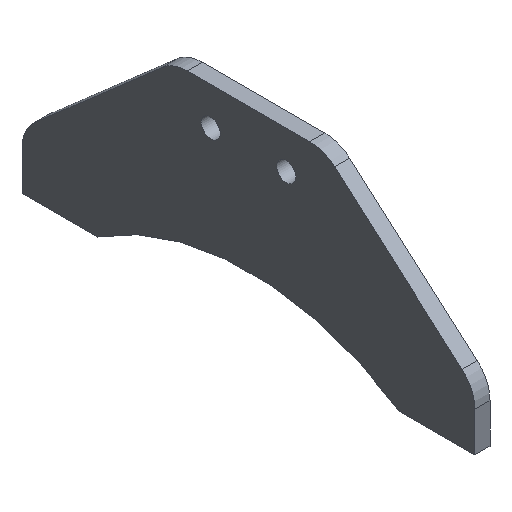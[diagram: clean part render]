
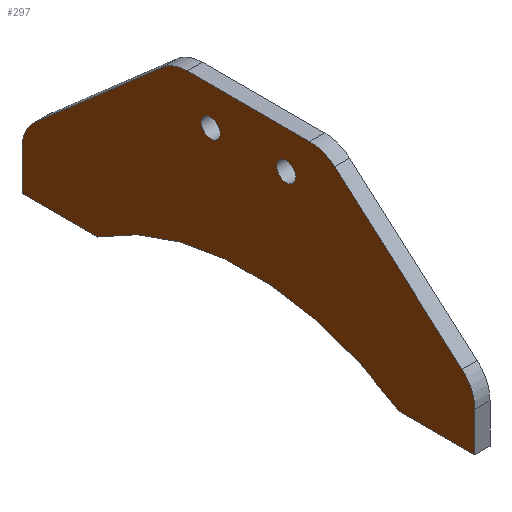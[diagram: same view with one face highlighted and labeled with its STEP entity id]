
A CAD part, isometric view. The second image highlights one B-rep face of the part: STEP entity #297.
In plain terms, the highlighted planar face has unit normal (-1, 0, 0).
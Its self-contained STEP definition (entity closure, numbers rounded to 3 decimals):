
#15=FACE_BOUND('',#47,.T.);
#16=FACE_BOUND('',#48,.T.);
#20=PLANE('',#329);
#30=FACE_OUTER_BOUND('',#46,.T.);
#46=EDGE_LOOP('',(#212,#213,#214,#215,#216,#217,#218,#219,#220,#221,#222,
#223));
#47=EDGE_LOOP('',(#224));
#48=EDGE_LOOP('',(#225));
#66=LINE('',#457,#94);
#69=LINE('',#463,#97);
#70=LINE('',#465,#98);
#71=LINE('',#469,#99);
#72=LINE('',#471,#100);
#73=LINE('',#475,#101);
#74=LINE('',#479,#102);
#94=VECTOR('',#367,10.);
#97=VECTOR('',#372,10.);
#98=VECTOR('',#373,10.);
#99=VECTOR('',#376,10.);
#100=VECTOR('',#377,10.);
#101=VECTOR('',#380,10.);
#102=VECTOR('',#383,10.);
#121=CIRCLE('',#327,10.);
#122=CIRCLE('',#330,72.111);
#123=CIRCLE('',#331,10.);
#124=CIRCLE('',#332,10.);
#125=CIRCLE('',#333,10.);
#126=CIRCLE('',#334,2.5);
#127=CIRCLE('',#335,2.5);
#136=VERTEX_POINT('',#450);
#137=VERTEX_POINT('',#452);
#138=VERTEX_POINT('',#456);
#140=VERTEX_POINT('',#462);
#141=VERTEX_POINT('',#464);
#142=VERTEX_POINT('',#466);
#143=VERTEX_POINT('',#468);
#144=VERTEX_POINT('',#470);
#145=VERTEX_POINT('',#472);
#146=VERTEX_POINT('',#474);
#147=VERTEX_POINT('',#476);
#148=VERTEX_POINT('',#478);
#149=VERTEX_POINT('',#481);
#150=VERTEX_POINT('',#483);
#164=EDGE_CURVE('',#136,#137,#121,.T.);
#166=EDGE_CURVE('',#138,#137,#66,.T.);
#169=EDGE_CURVE('',#140,#136,#69,.T.);
#170=EDGE_CURVE('',#141,#140,#70,.T.);
#171=EDGE_CURVE('',#141,#142,#122,.T.);
#172=EDGE_CURVE('',#143,#142,#71,.T.);
#173=EDGE_CURVE('',#144,#143,#72,.T.);
#174=EDGE_CURVE('',#145,#144,#123,.T.);
#175=EDGE_CURVE('',#146,#145,#73,.T.);
#176=EDGE_CURVE('',#147,#146,#124,.T.);
#177=EDGE_CURVE('',#148,#147,#74,.T.);
#178=EDGE_CURVE('',#138,#148,#125,.T.);
#179=EDGE_CURVE('',#149,#149,#126,.T.);
#180=EDGE_CURVE('',#150,#150,#127,.T.);
#212=ORIENTED_EDGE('',*,*,#164,.F.);
#213=ORIENTED_EDGE('',*,*,#169,.F.);
#214=ORIENTED_EDGE('',*,*,#170,.F.);
#215=ORIENTED_EDGE('',*,*,#171,.T.);
#216=ORIENTED_EDGE('',*,*,#172,.F.);
#217=ORIENTED_EDGE('',*,*,#173,.F.);
#218=ORIENTED_EDGE('',*,*,#174,.F.);
#219=ORIENTED_EDGE('',*,*,#175,.F.);
#220=ORIENTED_EDGE('',*,*,#176,.F.);
#221=ORIENTED_EDGE('',*,*,#177,.F.);
#222=ORIENTED_EDGE('',*,*,#178,.F.);
#223=ORIENTED_EDGE('',*,*,#166,.T.);
#224=ORIENTED_EDGE('',*,*,#179,.F.);
#225=ORIENTED_EDGE('',*,*,#180,.F.);
#297=ADVANCED_FACE('',(#30,#15,#16),#20,.F.);
#327=AXIS2_PLACEMENT_3D('',#453,#362,#363);
#329=AXIS2_PLACEMENT_3D('',#461,#370,#371);
#330=AXIS2_PLACEMENT_3D('',#467,#374,#375);
#331=AXIS2_PLACEMENT_3D('',#473,#378,#379);
#332=AXIS2_PLACEMENT_3D('',#477,#381,#382);
#333=AXIS2_PLACEMENT_3D('',#480,#384,#385);
#334=AXIS2_PLACEMENT_3D('',#482,#386,#387);
#335=AXIS2_PLACEMENT_3D('',#484,#388,#389);
#362=DIRECTION('center_axis',(1.,0.,0.));
#363=DIRECTION('ref_axis',(0.,0.911,0.413));
#367=DIRECTION('',(0.,0.753,-0.659));
#370=DIRECTION('center_axis',(1.,0.,0.));
#371=DIRECTION('ref_axis',(0.,1.,0.));
#372=DIRECTION('',(0.,0.,1.));
#373=DIRECTION('',(0.,1.,0.));
#374=DIRECTION('center_axis',(1.,0.,0.));
#375=DIRECTION('ref_axis',(0.,0.555,0.832));
#376=DIRECTION('',(0.,1.,0.));
#377=DIRECTION('',(0.,0.,-1.));
#378=DIRECTION('center_axis',(1.,0.,0.));
#379=DIRECTION('ref_axis',(0.,-0.911,0.413));
#380=DIRECTION('',(0.,-0.753,-0.659));
#381=DIRECTION('center_axis',(1.,0.,0.));
#382=DIRECTION('ref_axis',(0.,-0.352,0.936));
#383=DIRECTION('',(0.,-1.,0.));
#384=DIRECTION('center_axis',(1.,0.,0.));
#385=DIRECTION('ref_axis',(0.,0.352,0.936));
#386=DIRECTION('center_axis',(-1.,0.,0.));
#387=DIRECTION('ref_axis',(0.,1.,0.));
#388=DIRECTION('center_axis',(-1.,0.,0.));
#389=DIRECTION('ref_axis',(0.,1.,0.));
#450=CARTESIAN_POINT('',(0.,60.,-29.538));
#452=CARTESIAN_POINT('',(0.,56.585,-22.012));
#453=CARTESIAN_POINT('Origin',(0.,50.,-29.538));
#456=CARTESIAN_POINT('',(0.,22.828,7.526));
#457=CARTESIAN_POINT('',(0.,20.,10.));
#461=CARTESIAN_POINT('Origin',(0.,0.,-15.));
#462=CARTESIAN_POINT('',(0.,60.,-40.));
#463=CARTESIAN_POINT('',(0.,60.,-40.));
#464=CARTESIAN_POINT('',(0.,40.,-40.));
#465=CARTESIAN_POINT('',(0.,-60.,-40.));
#466=CARTESIAN_POINT('',(0.,-40.,-40.));
#467=CARTESIAN_POINT('Origin',(0.,0.,-100.));
#468=CARTESIAN_POINT('',(0.,-60.,-40.));
#469=CARTESIAN_POINT('',(0.,-60.,-40.));
#470=CARTESIAN_POINT('',(0.,-60.,-29.538));
#471=CARTESIAN_POINT('',(0.,-60.,-10.));
#472=CARTESIAN_POINT('',(0.,-56.585,-22.012));
#473=CARTESIAN_POINT('Origin',(0.,-50.,-29.538));
#474=CARTESIAN_POINT('',(0.,-22.828,7.526));
#475=CARTESIAN_POINT('',(0.,-20.,10.));
#476=CARTESIAN_POINT('',(0.,-16.243,10.));
#477=CARTESIAN_POINT('Origin',(0.,-16.243,0.));
#478=CARTESIAN_POINT('',(0.,16.243,10.));
#479=CARTESIAN_POINT('',(0.,20.,10.));
#480=CARTESIAN_POINT('Origin',(0.,16.243,0.));
#481=CARTESIAN_POINT('',(0.,-12.5,0.));
#482=CARTESIAN_POINT('Origin',(0.,-10.,0.));
#483=CARTESIAN_POINT('',(0.,7.5,0.));
#484=CARTESIAN_POINT('Origin',(0.,10.,0.));
